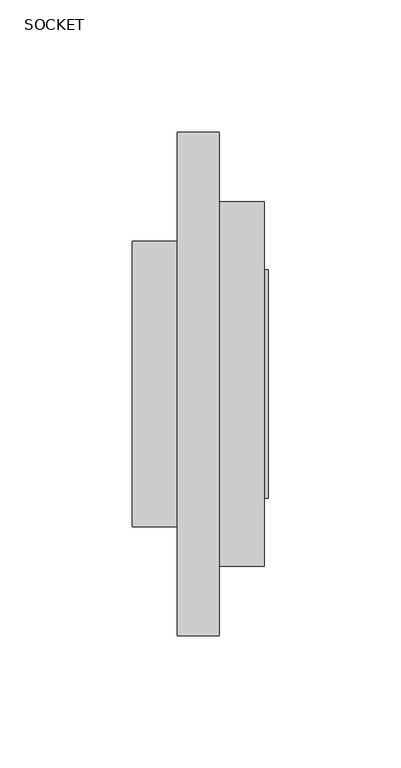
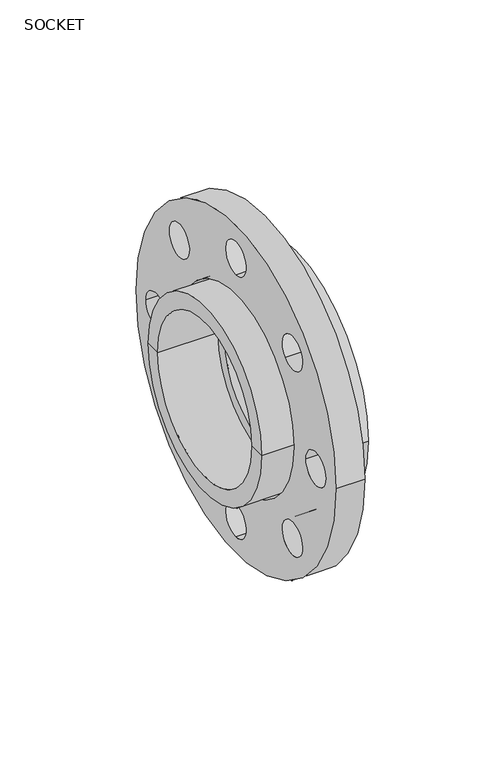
"""IFC4 building model written with IfcOpenShell, lengths in millimetres: valve geometry, Aquatherm - Flange Adapter Socket : SOCKET."""

from ifc_helpers import new_model, si_unit, point, frame, frame_2d, origin, origin_2d, place, context, project, spatial, polyline, circle_curve, trimmed, segment, composite_curve, outline, extrude, source, transform, mapped, element, save
from ifc_brep_helpers import plane_surface, cylinder_surface, revolved_surface, advanced_brep


def socket_d6a7fe27(model_context):
    return source(origin(), model_context, "Body", "SolidModel", [
        extrude(outline(composite_curve([segment(trimmed(circle_curve(origin_2d(), 95.25), [point((-95.25, 0.0))], [point((95.25, 0.0))], False, "CARTESIAN"), True, "CONTINUOUS"), segment(trimmed(circle_curve(origin_2d(), 95.25), [point((95.25, 0.0))], [point((-95.25, 0.0))], False, "CARTESIAN"), True, "CONTINUOUS")], self_intersect=False), holes=[composite_curve([segment(trimmed(circle_curve(origin_2d(), 55.118), [point((-55.118, 0.0))], [point((55.118, 0.0))], True, "CARTESIAN"), True, "CONTINUOUS"), segment(trimmed(circle_curve(origin_2d(), 55.118), [point((55.118, 0.0))], [point((-55.118, 0.0))], True, "CARTESIAN"), True, "CONTINUOUS")], self_intersect=False), composite_curve([segment(trimmed(circle_curve(frame_2d((76.2, 0.0)), 9.525), [point((66.675, 0.0))], [point((85.725, 0.0))], True, "CARTESIAN"), True, "CONTINUOUS"), segment(trimmed(circle_curve(frame_2d((76.2, 0.0)), 9.525), [point((85.725, 0.0))], [point((66.675, 0.0))], True, "CARTESIAN"), True, "CONTINUOUS")], self_intersect=False), composite_curve([segment(trimmed(circle_curve(frame_2d((53.8815367, -53.8815367)), 9.525), [point((47.1463446, -47.1463446))], [point((60.6167288, -60.6167288))], True, "CARTESIAN"), True, "CONTINUOUS"), segment(trimmed(circle_curve(frame_2d((53.8815367, -53.8815367)), 9.525), [point((60.6167288, -60.6167288))], [point((47.1463446, -47.1463446))], True, "CARTESIAN"), True, "CONTINUOUS")], self_intersect=False), composite_curve([segment(trimmed(circle_curve(frame_2d((53.8815367, 53.8815367)), 9.525), [point((47.1463446, 47.1463446))], [point((60.6167288, 60.6167288))], True, "CARTESIAN"), True, "CONTINUOUS"), segment(trimmed(circle_curve(frame_2d((53.8815367, 53.8815367)), 9.525), [point((60.6167288, 60.6167288))], [point((47.1463446, 47.1463446))], True, "CARTESIAN"), True, "CONTINUOUS")], self_intersect=False), composite_curve([segment(trimmed(circle_curve(frame_2d((0.0, 76.2)), 9.525), [point((0.0, 66.675))], [point((0.0, 85.725))], True, "CARTESIAN"), True, "CONTINUOUS"), segment(trimmed(circle_curve(frame_2d((0.0, 76.2)), 9.525), [point((0.0, 85.725))], [point((0.0, 66.675))], True, "CARTESIAN"), True, "CONTINUOUS")], self_intersect=False), composite_curve([segment(trimmed(circle_curve(frame_2d((-53.8815367, 53.8815367)), 9.525), [point((-47.1463446, 47.1463446))], [point((-60.6167288, 60.6167288))], True, "CARTESIAN"), True, "CONTINUOUS"), segment(trimmed(circle_curve(frame_2d((-53.8815367, 53.8815367)), 9.525), [point((-60.6167288, 60.6167288))], [point((-47.1463446, 47.1463446))], True, "CARTESIAN"), True, "CONTINUOUS")], self_intersect=False), composite_curve([segment(trimmed(circle_curve(frame_2d((-76.2, 0.0)), 9.525), [point((-66.675, 0.0))], [point((-85.725, 0.0))], True, "CARTESIAN"), True, "CONTINUOUS"), segment(trimmed(circle_curve(frame_2d((-76.2, 0.0)), 9.525), [point((-85.725, 0.0))], [point((-66.675, 0.0))], True, "CARTESIAN"), True, "CONTINUOUS")], self_intersect=False), composite_curve([segment(trimmed(circle_curve(frame_2d((-53.8815367, -53.8815367)), 9.525), [point((-47.1463446, -47.1463446))], [point((-60.6167288, -60.6167288))], True, "CARTESIAN"), True, "CONTINUOUS"), segment(trimmed(circle_curve(frame_2d((-53.8815367, -53.8815367)), 9.525), [point((-60.6167288, -60.6167288))], [point((-47.1463446, -47.1463446))], True, "CARTESIAN"), True, "CONTINUOUS")], self_intersect=False), composite_curve([segment(trimmed(circle_curve(frame_2d((0.0, -76.2)), 9.525), [point((0.0, -66.675))], [point((0.0, -85.725))], True, "CARTESIAN"), True, "CONTINUOUS"), segment(trimmed(circle_curve(frame_2d((0.0, -76.2)), 9.525), [point((0.0, -85.725))], [point((0.0, -66.675))], True, "CARTESIAN"), True, "CONTINUOUS")], self_intersect=False)]), frame((-16.002, 0.0, 0.0), z_axis=(1.0, 0.0, 0.0), x_axis=(0.0, 1.0, 0.0)), (0.0, 0.0, 1.0), 16.002),
        advanced_brep(
        [(18.542, 38.1, 0.0), (18.542, -38.1, 0.0), (18.542, -43.18, 0.0), (18.542, 43.18, 0.0), (0.0, 38.1, 0.0), (0.0, -38.1, 0.0), (0.0, 44.958, 0.0), (0.0, -44.958, 0.0), (-33.02, 44.958, 0.0), (-33.02, -44.958, 0.0), (-33.02, 53.975, 0.0), (-33.02, -53.975, 0.0), (0.0, 53.975, 0.0), (0.0, -53.975, 0.0), (0.0, 68.961, 0.0), (0.0, -68.961, 0.0), (17.018, 68.961, 0.0), (17.018, -68.961, 0.0), (17.018, 43.18, 0.0), (17.018, -43.18, 0.0)],
        [
            (0, 1, circle_curve(frame((18.542, 0.0, 0.0), z_axis=(-1.0, 0.0, 0.0), x_axis=(0.0, -1.0, 0.0)), 38.1)),
            (1, 2),
            (2, 3, circle_curve(frame((18.542, 0.0, 0.0), z_axis=(1.0, 0.0, 0.0), x_axis=(0.0, -1.0, 0.0)), 43.18)),
            (3, 0),
            (1, 0, circle_curve(frame((18.542, 0.0, 0.0), z_axis=(-1.0, 0.0, 0.0), x_axis=(0.0, -1.0, 0.0)), 38.1)),
            (3, 2, circle_curve(frame((18.542, 0.0, 0.0), z_axis=(1.0, 0.0, 0.0), x_axis=(0.0, -1.0, 0.0)), 43.18)),
            (4, 5, circle_curve(frame((0.0, 0.0, 0.0), z_axis=(-1.0, 0.0, 0.0), x_axis=(0.0, -1.0, 0.0)), 38.1)),
            (5, 1),
            (0, 4),
            (5, 4, circle_curve(frame((0.0, 0.0, 0.0), z_axis=(-1.0, 0.0, 0.0), x_axis=(0.0, -1.0, 0.0)), 38.1)),
            (6, 7, circle_curve(frame((0.0, 0.0, 0.0), z_axis=(-1.0, 0.0, 0.0), x_axis=(0.0, -1.0, 0.0)), 44.958)),
            (7, 5),
            (4, 6),
            (7, 6, circle_curve(frame((0.0, 0.0, 0.0), z_axis=(-1.0, 0.0, 0.0), x_axis=(0.0, -1.0, 0.0)), 44.958)),
            (8, 9, circle_curve(frame((-33.02, 0.0, 0.0), z_axis=(-1.0, 0.0, 0.0), x_axis=(0.0, -1.0, 0.0)), 44.958)),
            (9, 7),
            (6, 8),
            (9, 8, circle_curve(frame((-33.02, 0.0, 0.0), z_axis=(-1.0, 0.0, 0.0), x_axis=(0.0, -1.0, 0.0)), 44.958)),
            (10, 11, circle_curve(frame((-33.02, 0.0, 0.0), z_axis=(-1.0, 0.0, 0.0), x_axis=(0.0, -1.0, 0.0)), 53.975)),
            (11, 9),
            (8, 10),
            (11, 10, circle_curve(frame((-33.02, 0.0, 0.0), z_axis=(-1.0, 0.0, 0.0), x_axis=(0.0, -1.0, 0.0)), 53.975)),
            (12, 13, circle_curve(frame((0.0, 0.0, 0.0), z_axis=(-1.0, 0.0, 0.0), x_axis=(0.0, -1.0, 0.0)), 53.975)),
            (13, 11),
            (10, 12),
            (13, 12, circle_curve(frame((0.0, 0.0, 0.0), z_axis=(-1.0, 0.0, 0.0), x_axis=(0.0, -1.0, 0.0)), 53.975)),
            (14, 15, circle_curve(frame((0.0, 0.0, 0.0), z_axis=(-1.0, 0.0, 0.0), x_axis=(0.0, -1.0, 0.0)), 68.961)),
            (15, 13),
            (12, 14),
            (15, 14, circle_curve(frame((0.0, 0.0, 0.0), z_axis=(-1.0, 0.0, 0.0), x_axis=(0.0, -1.0, 0.0)), 68.961)),
            (16, 17, circle_curve(frame((17.018, 0.0, 0.0), z_axis=(-1.0, 0.0, 0.0), x_axis=(0.0, -1.0, 0.0)), 68.961)),
            (17, 15),
            (14, 16),
            (17, 16, circle_curve(frame((17.018, 0.0, 0.0), z_axis=(-1.0, 0.0, 0.0), x_axis=(0.0, -1.0, 0.0)), 68.961)),
            (18, 19, circle_curve(frame((17.018, 0.0, 0.0), z_axis=(-1.0, 0.0, 0.0), x_axis=(0.0, -1.0, 0.0)), 43.18)),
            (19, 17),
            (16, 18),
            (19, 18, circle_curve(frame((17.018, 0.0, 0.0), z_axis=(-1.0, 0.0, 0.0), x_axis=(0.0, -1.0, 0.0)), 43.18)),
            (2, 19),
            (18, 3),
        ],
        [
            plane_surface(frame((18.542, 0.0, 0.0), z_axis=(1.0, 0.0, 0.0), x_axis=(0.0, -1.0, 0.0))),
            revolved_surface(polyline([(18.541999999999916, -38.1, 0.0), (0.0, -38.1, 0.0)]), (1447.8371939, 0.0, 0.0), (1.0, 0.0, 0.0)),
            plane_surface(frame((0.0, 0.0, 0.0), z_axis=(-1.0, 0.0, 0.0), x_axis=(0.0, -1.0, 0.0))),
            revolved_surface(polyline([(0.0, -44.958, 0.0), (-33.01999999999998, -44.958, 0.0)]), (1447.8371939, 0.0, 0.0), (1.0, 0.0, 0.0)),
            plane_surface(frame((-33.02, 0.0, 0.0), z_axis=(-1.0, 0.0, 0.0), x_axis=(0.0, -1.0, 0.0))),
            cylinder_surface(frame((1447.8371939, 0.0, 0.0), z_axis=(1.0, 0.0, 0.0), x_axis=(0.0, -1.0, 0.0)), 53.975),
            cylinder_surface(frame((1447.8371939, 0.0, 0.0), z_axis=(1.0, 0.0, 0.0), x_axis=(0.0, -1.0, 0.0)), 68.961),
            plane_surface(frame((17.018, 0.0, 0.0), z_axis=(1.0, 0.0, 0.0), x_axis=(0.0, -1.0, 0.0))),
            cylinder_surface(frame((1447.8371939, 0.0, 0.0), z_axis=(1.0, 0.0, 0.0), x_axis=(0.0, -1.0, 0.0)), 43.18),
        ],
        [
            (0, [[1, 2, 3, 4]]),
            (0, [[5, -4, 6, -2]]),
            (1, [[7, 8, -1, 9]]),
            (1, [[10, -9, -5, -8]]),
            (2, [[11, 12, -7, 13]]),
            (2, [[14, -13, -10, -12]]),
            (3, [[15, 16, -11, 17]]),
            (3, [[18, -17, -14, -16]]),
            (4, [[19, 20, -15, 21]]),
            (4, [[22, -21, -18, -20]]),
            (5, [[23, 24, -19, 25]]),
            (5, [[26, -25, -22, -24]]),
            (2, [[27, 28, -23, 29]]),
            (2, [[30, -29, -26, -28]]),
            (6, [[31, 32, -27, 33]]),
            (6, [[34, -33, -30, -32]]),
            (7, [[35, 36, -31, 37]]),
            (7, [[38, -37, -34, -36]]),
            (8, [[-3, 39, -35, 40]]),
            (8, [[-6, -40, -38, -39]]),
        ],
    ),
    ])


if __name__ == "__main__":
    model = new_model("IFC4")
    model_context = context("Model", 3, world=origin())
    ifc_project = project(units=[si_unit("LENGTHUNIT", "METRE", prefix="MILLI")], contexts=[model_context])
    site = spatial("IfcSite", under=ifc_project)
    building = spatial("IfcBuilding", under=site)
    placement = place(None, origin())
    ifc_socket_shape = socket_d6a7fe27(model_context)
    element("IfcValve", 1, ObjectType="Aquatherm - Flange Adapter Socket : SOCKET", at=placement, inside=building, context=model_context, shape_type="MappedRepresentation", body=[
        mapped(ifc_socket_shape, transform((0.0, 0.0, 0.0), x_axis=(1.0, 0.0, 0.0), y_axis=(0.0, 1.0, 0.0), z_axis=(0.0, 0.0, 1.0))),
    ])
    save(model, "model.ifc")
